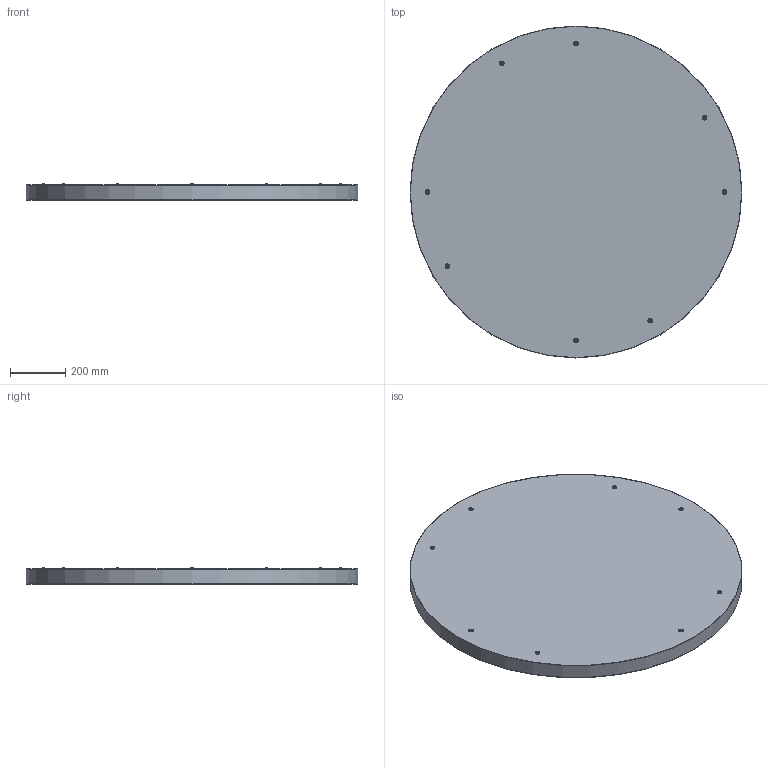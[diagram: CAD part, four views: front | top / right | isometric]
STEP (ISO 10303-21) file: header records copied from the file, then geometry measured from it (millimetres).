
FILE_DESCRIPTION (( 'STEP AP214' ), '1' );
FILE_NAME ('LONDON-P3760672.STEP', '2026-01-14T10:50:03', ( '' ), ( '' ), 'SwSTEP 2.0', 'SolidWorks 2025', '' );
FILE_SCHEMA (( 'AUTOMOTIVE_DESIGN' ));
Length unit declared in the file: millimetre
Products named in the file (1): LONDON-P3760672
Bounding box: 1200 x 1200 x 58 mm (x, y, z)
Volume: 2467610.5 mm3; surface area: 4942840.3 mm2
Topology: 2 solids, 2 shells, 84 faces, 188 edges, 126 vertices
Faces by surface type: torus 34, plane 22, cone 16, cylinder 12
Full cylindrical faces by diameter (mm): 5 x8, 1190 x1, 1194 x1, 1198 x1, 1200 x1
Entity records: 1808 total; most frequent: DIRECTION 350, CARTESIAN_POINT 265, ORIENTED_EDGE 180, EDGE_LOOP 180, AXIS2_PLACEMENT_3D 175, FACE_OUTER_BOUND 130, VERTEX_POINT 90, EDGE_CURVE 90
